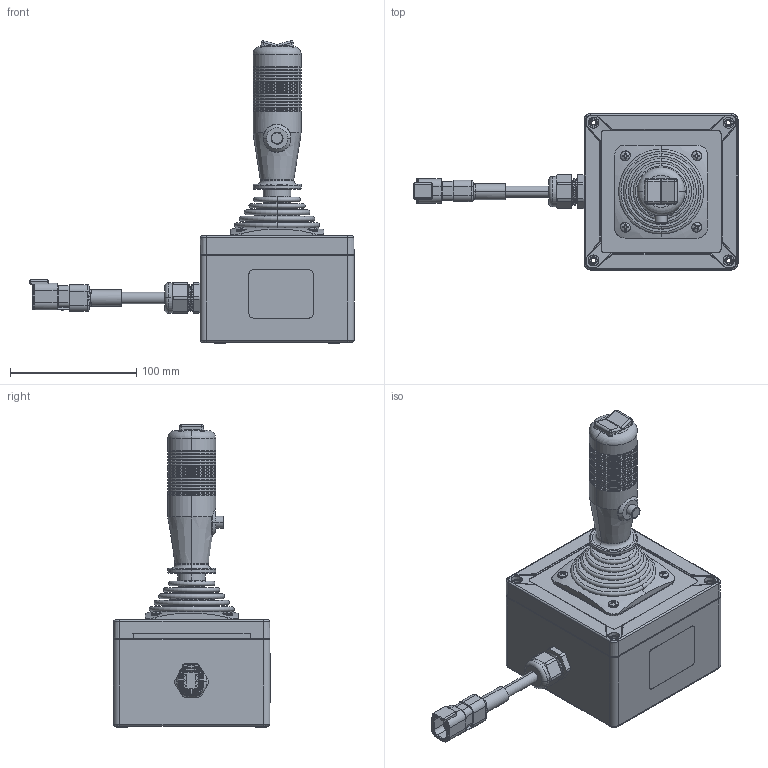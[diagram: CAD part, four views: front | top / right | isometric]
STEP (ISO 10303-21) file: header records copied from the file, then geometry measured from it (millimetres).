
FILE_DESCRIPTION (( 'STEP AP203' ), '1' );
FILE_NAME ('Nitro HD Joystick.STEP', '2017-08-24T16:43:05', ( 'eb' ), ( '' ), 'SwSTEP 2.0', 'SolidWorks 2017', '' );
FILE_SCHEMA (( 'CONFIG_CONTROL_DESIGN' ));
Length unit declared in the file: inch
Products named in the file (1): Nitro HD Joystick
Bounding box: 256.71 x 124.48 x 239.65 mm (x, y, z)
Volume: 1435415.5 mm3; surface area: 152098.2 mm2
Topology: 2 solids, 2 shells, 1499 faces, 3937 edges, 2459 vertices
Faces by surface type: plane 652, cylinder 424, bspline 154, torus 147, cone 110, sphere 12
Entity records: 53543 total; most frequent: CARTESIAN_POINT 17251, ORIENTED_EDGE 7842, DIRECTION 7459, EDGE_CURVE 3921, AXIS2_PLACEMENT_3D 2799, VERTEX_POINT 2455, LINE 1861, VECTOR 1861
